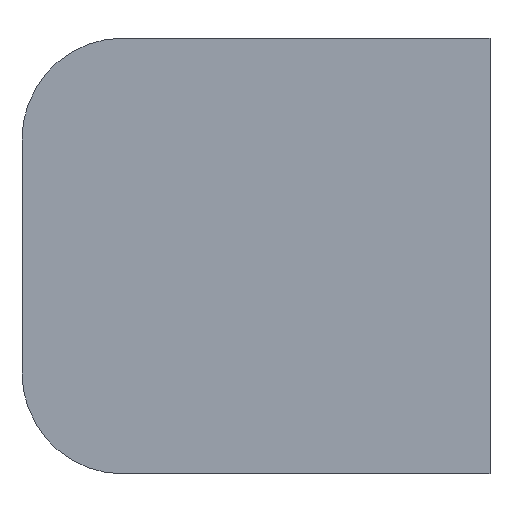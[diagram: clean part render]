
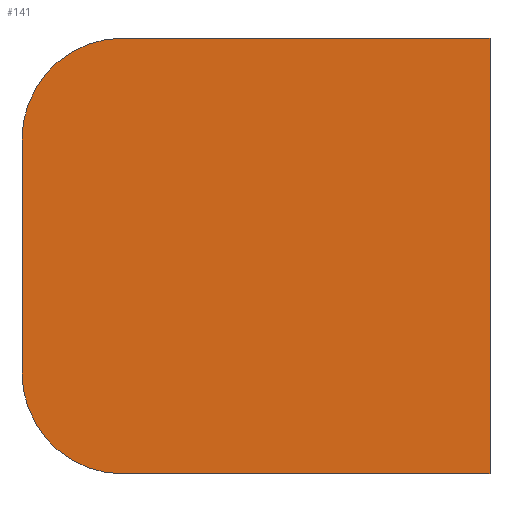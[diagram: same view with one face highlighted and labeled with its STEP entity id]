
A CAD part, front view. The second image highlights one B-rep face of the part: STEP entity #141.
In plain terms, the highlighted planar face has unit normal (0, -1, 0).
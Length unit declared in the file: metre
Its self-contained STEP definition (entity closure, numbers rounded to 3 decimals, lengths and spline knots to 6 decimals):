
#12=CIRCLE('',#159,0.0025);
#14=CIRCLE('',#163,0.0025);
#48=ORIENTED_EDGE('',*,*,#54,.F.);
#49=ORIENTED_EDGE('',*,*,#70,.F.);
#50=ORIENTED_EDGE('',*,*,#67,.F.);
#51=ORIENTED_EDGE('',*,*,#64,.F.);
#52=ORIENTED_EDGE('',*,*,#61,.F.);
#53=ORIENTED_EDGE('',*,*,#58,.T.);
#54=EDGE_CURVE('',#72,#73,#84,.T.);
#58=EDGE_CURVE('',#76,#73,#88,.T.);
#61=EDGE_CURVE('',#76,#78,#91,.T.);
#64=EDGE_CURVE('',#78,#80,#12,.T.);
#67=EDGE_CURVE('',#80,#82,#95,.T.);
#70=EDGE_CURVE('',#82,#72,#14,.T.);
#72=VERTEX_POINT('',#210);
#73=VERTEX_POINT('',#211);
#76=VERTEX_POINT('',#219);
#78=VERTEX_POINT('',#225);
#80=VERTEX_POINT('',#231);
#82=VERTEX_POINT('',#237);
#84=LINE('',#209,#98);
#88=LINE('',#218,#102);
#91=LINE('',#224,#105);
#95=LINE('',#236,#109);
#98=VECTOR('',#171,1.);
#102=VECTOR('',#177,1.);
#105=VECTOR('',#182,1.);
#109=VECTOR('',#194,1.);
#119=EDGE_LOOP('',(#48,#49,#50,#51,#52,#53));
#127=FACE_BOUND('',#119,.T.);
#133=PLANE('',#166);
#141=ADVANCED_FACE('',(#127),#133,.F.);
#159=AXIS2_PLACEMENT_3D('',#230,#187,#188);
#163=AXIS2_PLACEMENT_3D('',#242,#199,#200);
#166=AXIS2_PLACEMENT_3D('',#245,#205,#206);
#171=DIRECTION('',(1.,0.,0.));
#177=DIRECTION('',(0.,0.,1.));
#182=DIRECTION('',(-1.,0.,0.));
#187=DIRECTION('',(0.,1.,0.));
#188=DIRECTION('',(0.,0.,1.));
#194=DIRECTION('',(0.,0.,1.));
#199=DIRECTION('',(0.,1.,0.));
#200=DIRECTION('',(0.,0.,1.));
#205=DIRECTION('',(0.,1.,0.));
#206=DIRECTION('',(1.,0.,0.));
#209=CARTESIAN_POINT('',(0.00455,0.0129,-0.065));
#210=CARTESIAN_POINT('',(0.,0.0129,-0.065));
#211=CARTESIAN_POINT('',(0.0091,0.0129,-0.065));
#218=CARTESIAN_POINT('',(0.0091,0.0129,-0.0704));
#219=CARTESIAN_POINT('',(0.0091,0.0129,-0.0758));
#224=CARTESIAN_POINT('',(0.00455,0.0129,-0.0758));
#225=CARTESIAN_POINT('',(0.,0.0129,-0.0758));
#230=CARTESIAN_POINT('',(0.,0.0129,-0.0733));
#231=CARTESIAN_POINT('',(-0.0025,0.0129,-0.0733));
#236=CARTESIAN_POINT('',(-0.0025,0.0129,-0.0704));
#237=CARTESIAN_POINT('',(-0.0025,0.0129,-0.0675));
#242=CARTESIAN_POINT('',(0.,0.0129,-0.0675));
#245=CARTESIAN_POINT('',(0.0033,0.0129,-0.0704));
